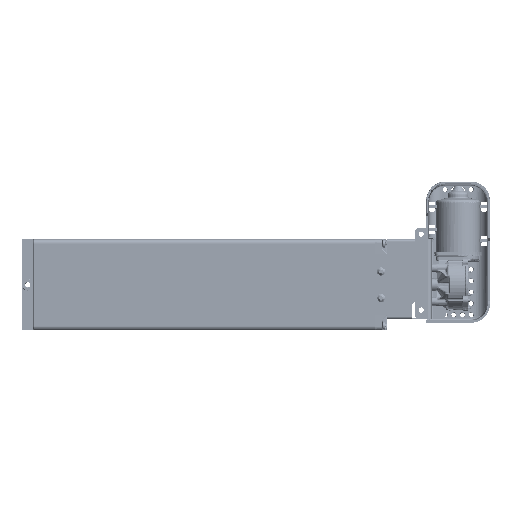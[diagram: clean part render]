
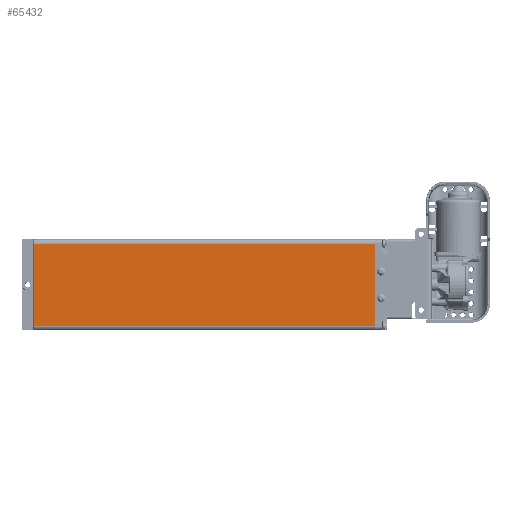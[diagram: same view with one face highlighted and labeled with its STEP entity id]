
A CAD part, top view. The second image highlights one B-rep face of the part: STEP entity #65432.
In plain terms, the highlighted planar face has unit normal (0, 0, 1).
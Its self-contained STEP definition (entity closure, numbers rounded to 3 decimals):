
#5886=LINE('',#112875,#8599);
#5887=LINE('',#112878,#8600);
#5888=LINE('',#112880,#8601);
#5889=LINE('',#112882,#8602);
#8599=VECTOR('',#76269,1000.);
#8600=VECTOR('',#76270,1000.);
#8601=VECTOR('',#76271,1000.);
#8602=VECTOR('',#76272,1000.);
#10701=PLANE('',#69286);
#15844=ORIENTED_EDGE('',*,*,#29680,.T.);
#15845=ORIENTED_EDGE('',*,*,#29681,.T.);
#15846=ORIENTED_EDGE('',*,*,#29682,.T.);
#15847=ORIENTED_EDGE('',*,*,#29683,.T.);
#29680=EDGE_CURVE('',#36825,#36826,#5886,.F.);
#29681=EDGE_CURVE('',#36826,#36827,#5887,.T.);
#29682=EDGE_CURVE('',#36827,#36828,#5888,.T.);
#29683=EDGE_CURVE('',#36828,#36825,#5889,.F.);
#36825=VERTEX_POINT('',#112876);
#36826=VERTEX_POINT('',#112877);
#36827=VERTEX_POINT('',#112879);
#36828=VERTEX_POINT('',#112881);
#43752=EDGE_LOOP('',(#15844,#15845,#15846,#15847));
#47748=FACE_BOUND('',#43752,.T.);
#65432=ADVANCED_FACE('',(#47748),#10701,.T.);
#69286=AXIS2_PLACEMENT_3D('',#112874,#76267,#76268);
#76267=DIRECTION('',(0.,0.,1.));
#76268=DIRECTION('',(1.,0.,0.));
#76269=DIRECTION('',(0.,-1.,0.));
#76270=DIRECTION('',(-1.,0.,0.));
#76271=DIRECTION('',(0.,-1.,0.));
#76272=DIRECTION('',(-1.,0.,0.));
#112874=CARTESIAN_POINT('',(60.,450.5,30.));
#112875=CARTESIAN_POINT('',(54.,450.5,30.));
#112876=CARTESIAN_POINT('',(54.,0.5,30.));
#112877=CARTESIAN_POINT('',(54.,450.,30.));
#112878=CARTESIAN_POINT('',(60.,450.,30.));
#112879=CARTESIAN_POINT('',(-54.,450.,30.));
#112880=CARTESIAN_POINT('',(-54.,450.5,30.));
#112881=CARTESIAN_POINT('',(-54.,0.5,30.));
#112882=CARTESIAN_POINT('',(54.,0.5,30.));
